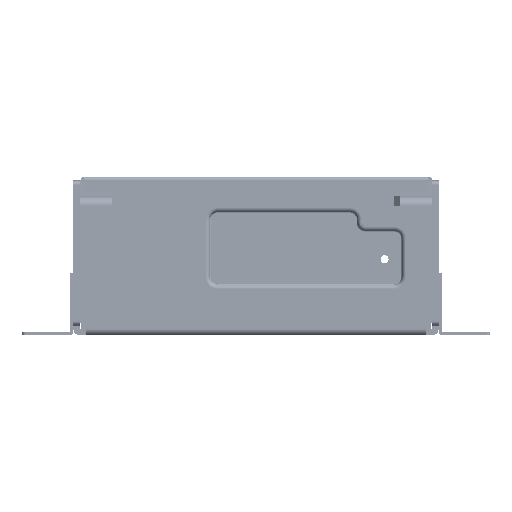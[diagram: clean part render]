
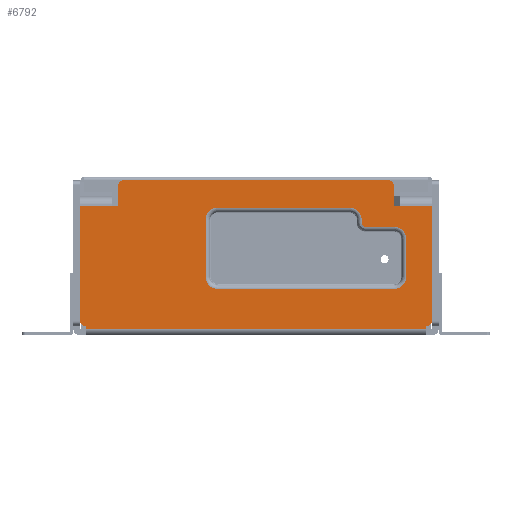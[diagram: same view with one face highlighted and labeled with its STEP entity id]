
A CAD part, left-side view. The second image highlights one B-rep face of the part: STEP entity #6792.
In plain terms, the highlighted planar face has unit normal (-1, 0, 0).
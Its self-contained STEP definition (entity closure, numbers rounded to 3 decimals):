
#108=DIRECTION('',(0.,-1.,0.));
#109=VECTOR('',#108,10.);
#110=CARTESIAN_POINT('',(0.,-36.789,38.8));
#111=LINE('',#110,#109);
#126=CARTESIAN_POINT('',(0.,50.511,45.3));
#127=DIRECTION('',(-1.,0.,0.));
#128=DIRECTION('',(0.,0.,1.));
#129=AXIS2_PLACEMENT_3D('',#126,#127,#128);
#131=DIRECTION('',(0.,1.,0.));
#132=VECTOR('',#131,83.8);
#133=CARTESIAN_POINT('',(0.,-33.289,46.8));
#134=LINE('',#133,#132);
#135=CARTESIAN_POINT('',(0.,-33.289,45.3));
#136=DIRECTION('',(-1.,0.,0.));
#137=DIRECTION('',(0.,-1.,0.));
#138=AXIS2_PLACEMENT_3D('',#135,#136,#137);
#140=DIRECTION('',(0.,0.,-1.));
#141=VECTOR('',#140,6.5);
#142=CARTESIAN_POINT('',(0.,-34.789,45.3));
#143=LINE('',#142,#141);
#144=DIRECTION('',(0.,1.,0.));
#145=VECTOR('',#144,2.);
#146=CARTESIAN_POINT('',(0.,-36.789,38.8));
#147=LINE('',#146,#145);
#148=DIRECTION('',(0.,0.,1.));
#149=VECTOR('',#148,36.3);
#150=CARTESIAN_POINT('',(0.,-46.789,2.5));
#151=LINE('',#150,#149);
#152=CARTESIAN_POINT('',(0.,-45.289,2.5));
#153=DIRECTION('',(-1.,0.,0.));
#154=DIRECTION('',(0.,0.,-1.));
#155=AXIS2_PLACEMENT_3D('',#152,#153,#154);
#157=DIRECTION('',(0.,-1.,0.));
#158=VECTOR('',#157,0.4);
#159=CARTESIAN_POINT('',(0.,-44.889,1.));
#160=LINE('',#159,#158);
#161=DIRECTION('',(0.,0.,1.));
#162=VECTOR('',#161,1.);
#163=CARTESIAN_POINT('',(0.,-44.889,0.));
#164=LINE('',#163,#162);
#165=DIRECTION('',(0.,0.,1.));
#166=VECTOR('',#165,1.);
#167=CARTESIAN_POINT('',(0.,62.111,0.));
#168=LINE('',#167,#166);
#169=DIRECTION('',(0.,-1.,0.));
#170=VECTOR('',#169,0.4);
#171=CARTESIAN_POINT('',(0.,62.511,1.));
#172=LINE('',#171,#170);
#173=CARTESIAN_POINT('',(0.,62.511,2.5));
#174=DIRECTION('',(-1.,0.,0.));
#175=DIRECTION('',(0.,1.,0.));
#176=AXIS2_PLACEMENT_3D('',#173,#174,#175);
#178=DIRECTION('',(0.,0.,-1.));
#179=VECTOR('',#178,36.3);
#180=CARTESIAN_POINT('',(0.,64.011,38.8));
#181=LINE('',#180,#179);
#182=DIRECTION('',(0.,1.,0.));
#183=VECTOR('',#182,2.);
#184=CARTESIAN_POINT('',(0.,52.011,38.8));
#185=LINE('',#184,#183);
#186=DIRECTION('',(0.,0.,-1.));
#187=VECTOR('',#186,6.5);
#188=CARTESIAN_POINT('',(0.,52.011,45.3));
#189=LINE('',#188,#187);
#190=CARTESIAN_POINT('',(0.,-20.789,34.344));
#191=DIRECTION('',(1.,0.,0.));
#192=DIRECTION('',(0.,0.,1.));
#193=AXIS2_PLACEMENT_3D('',#190,#191,#192);
#195=DIRECTION('',(0.,-1.,0.));
#196=VECTOR('',#195,41.4);
#197=CARTESIAN_POINT('',(0.,20.611,38.244));
#198=LINE('',#197,#196);
#199=CARTESIAN_POINT('',(0.,20.611,34.344));
#200=DIRECTION('',(1.,0.,0.));
#201=DIRECTION('',(0.,1.,0.));
#202=AXIS2_PLACEMENT_3D('',#199,#200,#201);
#204=DIRECTION('',(0.,0.,1.));
#205=VECTOR('',#204,17.844);
#206=CARTESIAN_POINT('',(0.,24.511,16.5));
#207=LINE('',#206,#205);
#208=CARTESIAN_POINT('',(0.,20.611,16.5));
#209=DIRECTION('',(1.,0.,0.));
#210=DIRECTION('',(0.,0.,-1.));
#211=AXIS2_PLACEMENT_3D('',#208,#209,#210);
#213=DIRECTION('',(0.,1.,0.));
#214=VECTOR('',#213,55.4);
#215=CARTESIAN_POINT('',(0.,-34.789,12.6));
#216=LINE('',#215,#214);
#217=CARTESIAN_POINT('',(0.,-34.789,16.5));
#218=DIRECTION('',(1.,0.,0.));
#219=DIRECTION('',(0.,-1.,0.));
#220=AXIS2_PLACEMENT_3D('',#217,#218,#219);
#222=DIRECTION('',(0.,0.,-1.));
#223=VECTOR('',#222,11.844);
#224=CARTESIAN_POINT('',(0.,-38.689,28.344));
#225=LINE('',#224,#223);
#226=CARTESIAN_POINT('',(0.,-34.789,28.344));
#227=DIRECTION('',(1.,0.,0.));
#228=DIRECTION('',(0.,0.,1.));
#229=AXIS2_PLACEMENT_3D('',#226,#227,#228);
#231=DIRECTION('',(0.,-1.,0.));
#232=VECTOR('',#231,9.);
#233=CARTESIAN_POINT('',(0.,-25.789,32.244));
#234=LINE('',#233,#232);
#235=CARTESIAN_POINT('',(0.,-25.789,33.344));
#236=DIRECTION('',(-1.,0.,0.));
#237=DIRECTION('',(0.,1.,0.));
#238=AXIS2_PLACEMENT_3D('',#235,#236,#237);
#240=DIRECTION('',(0.,0.,-1.));
#241=VECTOR('',#240,1.);
#242=CARTESIAN_POINT('',(0.,-24.689,34.344));
#243=LINE('',#242,#241);
#524=DIRECTION('',(0.,-1.,0.));
#525=VECTOR('',#524,10.);
#526=CARTESIAN_POINT('',(0.,64.011,38.8));
#527=LINE('',#526,#525);
#699=DIRECTION('',(0.,-1.,0.));
#700=VECTOR('',#699,107.);
#701=CARTESIAN_POINT('',(0.,62.111,0.));
#702=LINE('',#701,#700);
#5210=CARTESIAN_POINT('',(0.,-44.889,0.));
#5211=CARTESIAN_POINT('',(0.,-44.889,1.));
#5212=VERTEX_POINT('',#5210);
#5213=VERTEX_POINT('',#5211);
#5214=CARTESIAN_POINT('',(0.,62.111,0.));
#5215=CARTESIAN_POINT('',(0.,62.111,1.));
#5216=VERTEX_POINT('',#5214);
#5217=VERTEX_POINT('',#5215);
#5222=CARTESIAN_POINT('',(0.,64.011,2.5));
#5223=VERTEX_POINT('',#5222);
#5224=CARTESIAN_POINT('',(0.,62.511,1.));
#5225=VERTEX_POINT('',#5224);
#5414=CARTESIAN_POINT('',(0.,-45.289,1.));
#5415=VERTEX_POINT('',#5414);
#5416=CARTESIAN_POINT('',(0.,-46.789,2.5));
#5417=VERTEX_POINT('',#5416);
#5466=CARTESIAN_POINT('',(0.,-46.789,38.8));
#5467=VERTEX_POINT('',#5466);
#5468=CARTESIAN_POINT('',(0.,-36.789,38.8));
#5469=VERTEX_POINT('',#5468);
#5534=CARTESIAN_POINT('',(0.,54.011,38.8));
#5535=VERTEX_POINT('',#5534);
#5536=CARTESIAN_POINT('',(0.,64.011,38.8));
#5537=VERTEX_POINT('',#5536);
#5550=CARTESIAN_POINT('',(0.,-34.789,38.8));
#5551=VERTEX_POINT('',#5550);
#5552=CARTESIAN_POINT('',(0.,52.011,38.8));
#5553=VERTEX_POINT('',#5552);
#5558=CARTESIAN_POINT('',(0.,50.511,46.8));
#5559=VERTEX_POINT('',#5558);
#5560=CARTESIAN_POINT('',(0.,52.011,45.3));
#5561=VERTEX_POINT('',#5560);
#5566=CARTESIAN_POINT('',(0.,-34.789,45.3));
#5567=VERTEX_POINT('',#5566);
#5568=CARTESIAN_POINT('',(0.,-33.289,46.8));
#5569=VERTEX_POINT('',#5568);
#5824=CARTESIAN_POINT('',(0.,-20.789,38.244));
#5825=CARTESIAN_POINT('',(0.,-24.689,34.344));
#5826=VERTEX_POINT('',#5824);
#5827=VERTEX_POINT('',#5825);
#5828=CARTESIAN_POINT('',(0.,-24.689,33.344));
#5829=VERTEX_POINT('',#5828);
#5830=CARTESIAN_POINT('',(0.,-34.789,12.6));
#5831=CARTESIAN_POINT('',(0.,20.611,12.6));
#5832=VERTEX_POINT('',#5830);
#5833=VERTEX_POINT('',#5831);
#5834=CARTESIAN_POINT('',(0.,24.511,16.5));
#5835=VERTEX_POINT('',#5834);
#5836=CARTESIAN_POINT('',(0.,24.511,34.344));
#5837=VERTEX_POINT('',#5836);
#5838=CARTESIAN_POINT('',(0.,20.611,38.244));
#5839=VERTEX_POINT('',#5838);
#5968=CARTESIAN_POINT('',(0.,-25.789,32.244));
#5969=VERTEX_POINT('',#5968);
#5970=CARTESIAN_POINT('',(0.,-34.789,32.244));
#5971=VERTEX_POINT('',#5970);
#5972=CARTESIAN_POINT('',(0.,-38.689,28.344));
#5973=VERTEX_POINT('',#5972);
#5974=CARTESIAN_POINT('',(0.,-38.689,16.5));
#5975=VERTEX_POINT('',#5974);
#6724=CARTESIAN_POINT('',(0.,-46.889,-2.));
#6725=DIRECTION('',(-1.,0.,0.));
#6726=DIRECTION('',(0.,-1.,0.));
#6727=AXIS2_PLACEMENT_3D('',#6724,#6725,#6726);
#6728=PLANE('',#6727);
#6730=ORIENTED_EDGE('',*,*,#6729,.F.);
#6732=ORIENTED_EDGE('',*,*,#6731,.F.);
#6734=ORIENTED_EDGE('',*,*,#6733,.F.);
#6736=ORIENTED_EDGE('',*,*,#6735,.T.);
#6738=ORIENTED_EDGE('',*,*,#6737,.F.);
#6739=ORIENTED_EDGE('',*,*,#6715,.T.);
#6741=ORIENTED_EDGE('',*,*,#6740,.F.);
#6743=ORIENTED_EDGE('',*,*,#6742,.F.);
#6745=ORIENTED_EDGE('',*,*,#6744,.F.);
#6747=ORIENTED_EDGE('',*,*,#6746,.F.);
#6749=ORIENTED_EDGE('',*,*,#6748,.F.);
#6751=ORIENTED_EDGE('',*,*,#6750,.T.);
#6753=ORIENTED_EDGE('',*,*,#6752,.F.);
#6755=ORIENTED_EDGE('',*,*,#6754,.F.);
#6757=ORIENTED_EDGE('',*,*,#6756,.F.);
#6759=ORIENTED_EDGE('',*,*,#6758,.T.);
#6761=ORIENTED_EDGE('',*,*,#6760,.F.);
#6763=ORIENTED_EDGE('',*,*,#6762,.F.);
#6764=EDGE_LOOP('',(#6730,#6732,#6734,#6736,#6738,#6739,#6741,#6743,#6745,#6747,
#6749,#6751,#6753,#6755,#6757,#6759,#6761,#6763));
#6765=FACE_OUTER_BOUND('',#6764,.F.);
#6767=ORIENTED_EDGE('',*,*,#6766,.F.);
#6769=ORIENTED_EDGE('',*,*,#6768,.F.);
#6771=ORIENTED_EDGE('',*,*,#6770,.F.);
#6773=ORIENTED_EDGE('',*,*,#6772,.F.);
#6775=ORIENTED_EDGE('',*,*,#6774,.F.);
#6777=ORIENTED_EDGE('',*,*,#6776,.F.);
#6779=ORIENTED_EDGE('',*,*,#6778,.F.);
#6781=ORIENTED_EDGE('',*,*,#6780,.F.);
#6783=ORIENTED_EDGE('',*,*,#6782,.F.);
#6785=ORIENTED_EDGE('',*,*,#6784,.F.);
#6787=ORIENTED_EDGE('',*,*,#6786,.F.);
#6789=ORIENTED_EDGE('',*,*,#6788,.F.);
#6790=EDGE_LOOP('',(#6767,#6769,#6771,#6773,#6775,#6777,#6779,#6781,#6783,#6785,
#6787,#6789));
#6791=FACE_BOUND('',#6790,.F.);
#130=CIRCLE('',#129,1.5);
#139=CIRCLE('',#138,1.5);
#156=CIRCLE('',#155,1.5);
#177=CIRCLE('',#176,1.5);
#194=CIRCLE('',#193,3.9);
#203=CIRCLE('',#202,3.9);
#212=CIRCLE('',#211,3.9);
#221=CIRCLE('',#220,3.9);
#230=CIRCLE('',#229,3.9);
#239=CIRCLE('',#238,1.1);
#6715=EDGE_CURVE('',#5469,#5467,#111,.T.);
#6729=EDGE_CURVE('',#5559,#5561,#130,.T.);
#6731=EDGE_CURVE('',#5569,#5559,#134,.T.);
#6733=EDGE_CURVE('',#5567,#5569,#139,.T.);
#6735=EDGE_CURVE('',#5567,#5551,#143,.T.);
#6737=EDGE_CURVE('',#5469,#5551,#147,.T.);
#6740=EDGE_CURVE('',#5417,#5467,#151,.T.);
#6742=EDGE_CURVE('',#5415,#5417,#156,.T.);
#6744=EDGE_CURVE('',#5213,#5415,#160,.T.);
#6746=EDGE_CURVE('',#5212,#5213,#164,.T.);
#6748=EDGE_CURVE('',#5216,#5212,#702,.T.);
#6750=EDGE_CURVE('',#5216,#5217,#168,.T.);
#6752=EDGE_CURVE('',#5225,#5217,#172,.T.);
#6754=EDGE_CURVE('',#5223,#5225,#177,.T.);
#6756=EDGE_CURVE('',#5537,#5223,#181,.T.);
#6758=EDGE_CURVE('',#5537,#5535,#527,.T.);
#6760=EDGE_CURVE('',#5553,#5535,#185,.T.);
#6762=EDGE_CURVE('',#5561,#5553,#189,.T.);
#6766=EDGE_CURVE('',#5826,#5827,#194,.T.);
#6768=EDGE_CURVE('',#5839,#5826,#198,.T.);
#6770=EDGE_CURVE('',#5837,#5839,#203,.T.);
#6772=EDGE_CURVE('',#5835,#5837,#207,.T.);
#6774=EDGE_CURVE('',#5833,#5835,#212,.T.);
#6776=EDGE_CURVE('',#5832,#5833,#216,.T.);
#6778=EDGE_CURVE('',#5975,#5832,#221,.T.);
#6780=EDGE_CURVE('',#5973,#5975,#225,.T.);
#6782=EDGE_CURVE('',#5971,#5973,#230,.T.);
#6784=EDGE_CURVE('',#5969,#5971,#234,.T.);
#6786=EDGE_CURVE('',#5829,#5969,#239,.T.);
#6788=EDGE_CURVE('',#5827,#5829,#243,.T.);
#6792=ADVANCED_FACE('',(#6765,#6791),#6728,.T.);
